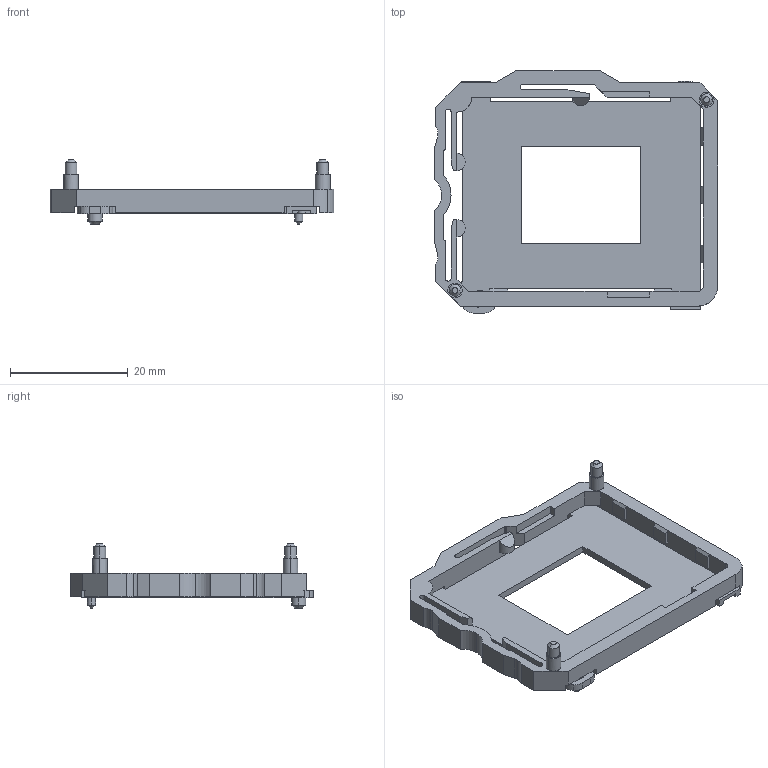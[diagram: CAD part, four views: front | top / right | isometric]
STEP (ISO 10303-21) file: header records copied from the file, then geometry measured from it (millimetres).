
FILE_DESCRIPTION((''),'2;1');
FILE_NAME('2503000a.stp','2001-08-21T17:21:47',(''),(''),'AutoCAD STEP 2000i','AutoCAD 2000i',', , ');
FILE_SCHEMA(('CONFIG_CONTROL_DESIGN'));
Length unit declared in the file: millimetre
Products named in the file (1): DRAWING2
Bounding box: 48.29 x 41.18 x 10.91 mm (x, y, z)
Volume: 2808.5 mm3; surface area: 4666 mm2
Topology: 1 solids, 1 shells, 235 faces, 653 edges, 419 vertices
Faces by surface type: plane 156, cylinder 71, cone 8
Entity records: 7669 total; most frequent: CARTESIAN_POINT 1390, ORIENTED_EDGE 1306, DIRECTION 1296, EDGE_CURVE 653, VECTOR 478, LINE 478, VERTEX_POINT 419, AXIS2_PLACEMENT_3D 409
